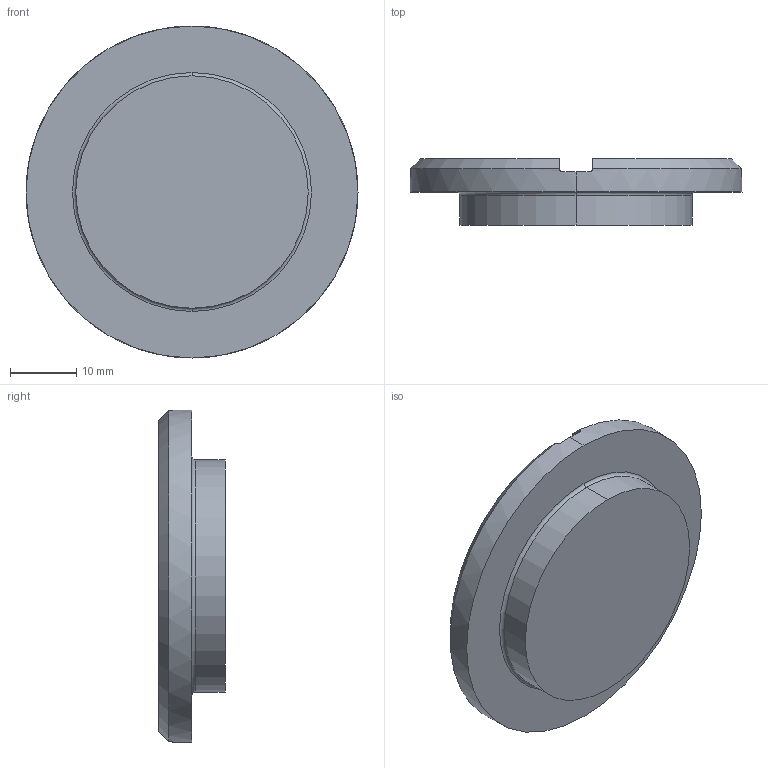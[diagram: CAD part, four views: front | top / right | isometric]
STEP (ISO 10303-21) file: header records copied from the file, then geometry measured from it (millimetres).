
FILE_DESCRIPTION (( 'STEP AP214' ), '1' );
FILE_NAME ('2026_4_4_フタ.STEP', '2026-04-27T00:22:46', ( '' ), ( '' ), 'SwSTEP 2.0', 'SolidWorks 2025', '' );
FILE_SCHEMA (( 'AUTOMOTIVE_DESIGN' ));
Length unit declared in the file: millimetre
Products named in the file (1): 2026_4_4_フタ
Bounding box: 50 x 10 x 50 mm (x, y, z)
Volume: 13978.2 mm3; surface area: 5259.8 mm2
Topology: 1 solids, 1 shells, 17 faces, 36 edges, 22 vertices
Faces by surface type: plane 7, cylinder 6, torus 2, cone 2
Entity records: 499 total; most frequent: CARTESIAN_POINT 108, DIRECTION 82, ORIENTED_EDGE 72, AXIS2_PLACEMENT_3D 36, EDGE_CURVE 36, VERTEX_POINT 22, CIRCLE 18, EDGE_LOOP 18
